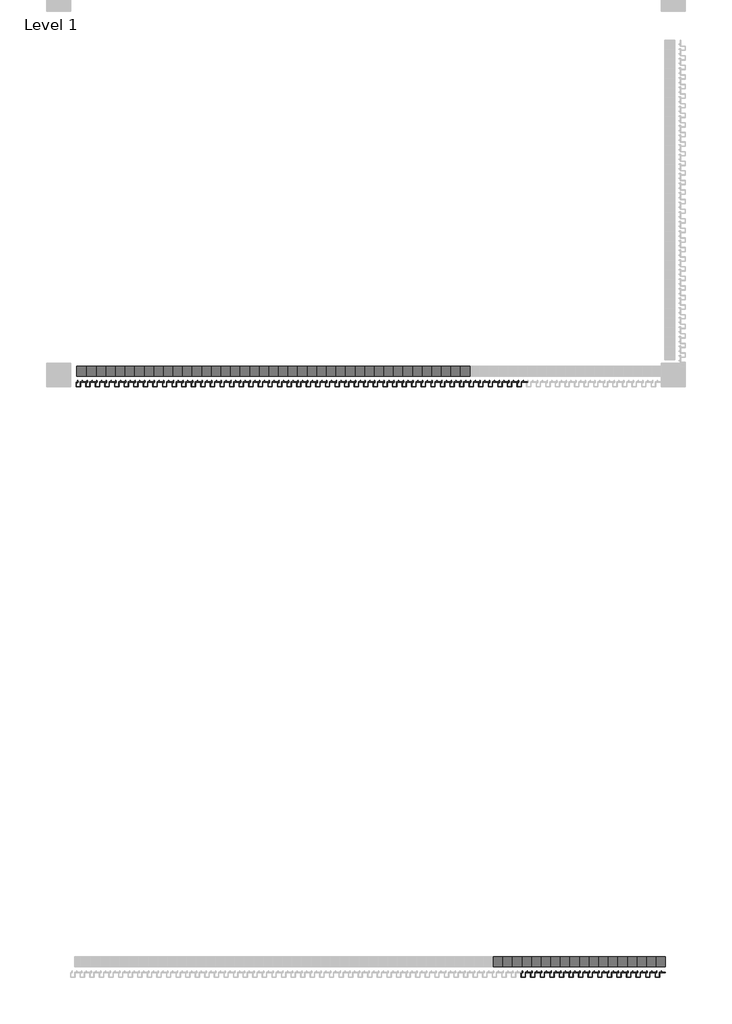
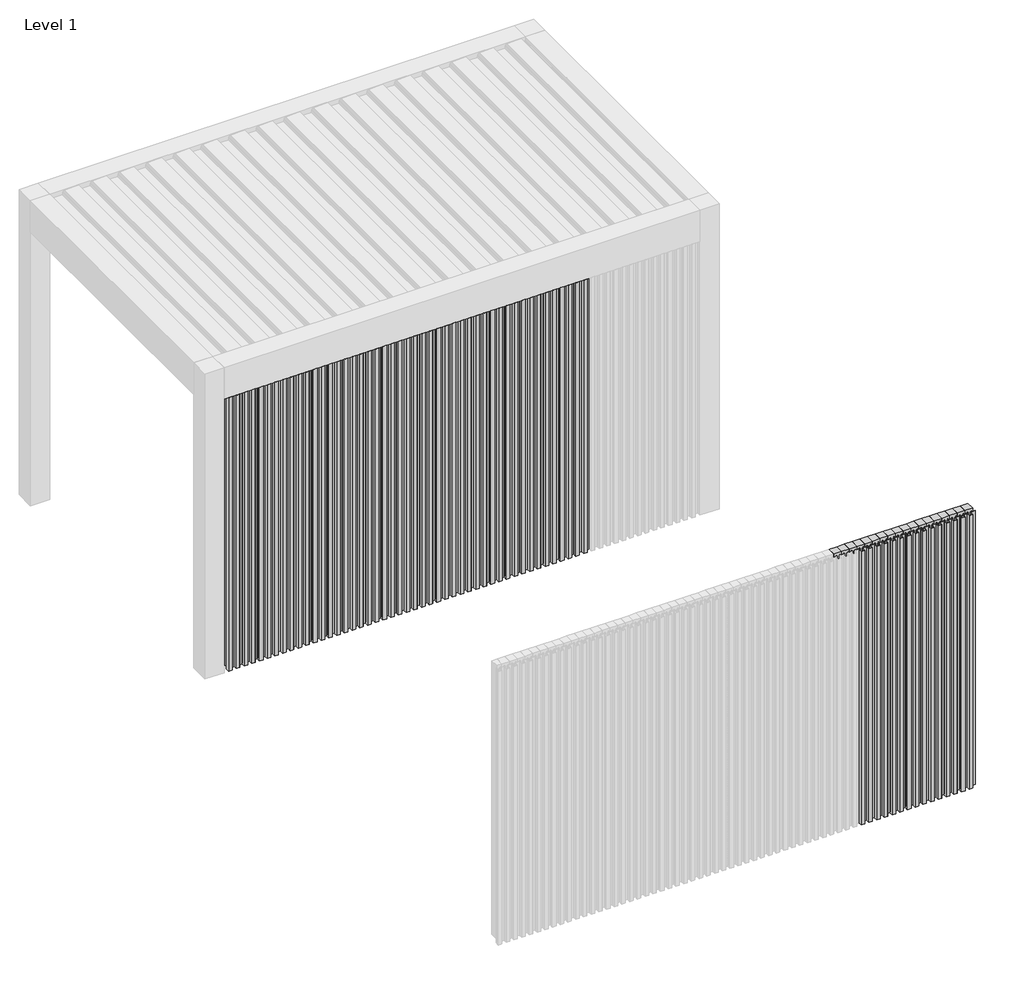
# One storey, part 4 of 69: 62 members, 59 plates.
"""IFC4 building model written with IfcOpenShell, lengths in millimetres."""

from ifc_helpers import new_model, si_unit, origin, origin_with_axes, place, context, project, spatial, polyline, outline, extrude, transform, mapped, element, save
from components import rectangular_mullion_72383e52, rectangular_mullion_f26adc31

model = new_model("IFC4")

# Units and contexts
model_context = context("Model", 3, world=origin())
ifc_project = project(units=[si_unit("LENGTHUNIT", "METRE", prefix="MILLI")], contexts=[model_context])

# Site, building, storey
site = spatial("IfcSite", under=ifc_project)
building = spatial("IfcBuilding", under=site)
storey = spatial("IfcBuildingStorey", under=building, Name="Level 1", Elevation=0.0)

# Members
placement = place(None, origin())
rectangular_mullion_shape = rectangular_mullion_72383e52(model_context)
element("IfcMember", 1, ObjectType="Rectangular Mullion : Renson_Linarte_LA-B30-01", at=placement, inside=storey, context=model_context, shape_type="MappedRepresentation", body=[
    mapped(rectangular_mullion_shape, transform((210010.5749423, 15422.7652501, 0.0), x_axis=(-1.0, 0.0, 0.0), y_axis=(0.0, 1.0, 0.0), z_axis=(0.0, 0.0, -1.0))),
])
element("IfcMember", 2, ObjectType="Rectangular Mullion : Renson_Linarte_LA-B30-01", at=placement, inside=storey, context=model_context, shape_type="MappedRepresentation", body=[
    mapped(rectangular_mullion_shape, transform((210070.5749423, 15422.7652501, 0.0), x_axis=(-1.0, 0.0, 0.0), y_axis=(0.0, 1.0, 0.0), z_axis=(0.0, 0.0, -1.0))),
])
element("IfcMember", 3, ObjectType="Rectangular Mullion : Renson_Linarte_LA-B30-01", at=placement, inside=storey, context=model_context, shape_type="MappedRepresentation", body=[
    mapped(rectangular_mullion_shape, transform((210130.5749423, 15422.7652501, 0.0), x_axis=(-1.0, 0.0, 0.0), y_axis=(0.0, 1.0, 0.0), z_axis=(0.0, 0.0, -1.0))),
])
element("IfcMember", 4, ObjectType="Rectangular Mullion : Renson_Linarte_LA-B30-01", at=placement, inside=storey, context=model_context, shape_type="MappedRepresentation", body=[
    mapped(rectangular_mullion_shape, transform((210190.5749423, 15422.7652501, 0.0), x_axis=(-1.0, 0.0, 0.0), y_axis=(0.0, 1.0, 0.0), z_axis=(0.0, 0.0, -1.0))),
])
element("IfcMember", 5, ObjectType="Rectangular Mullion : Renson_Linarte_LA-B30-01", at=placement, inside=storey, context=model_context, shape_type="MappedRepresentation", body=[
    mapped(rectangular_mullion_shape, transform((210250.5749423, 15422.7652501, 0.0), x_axis=(-1.0, 0.0, 0.0), y_axis=(0.0, 1.0, 0.0), z_axis=(0.0, 0.0, -1.0))),
])
element("IfcMember", 6, ObjectType="Rectangular Mullion : Renson_Linarte_LA-B30-01", at=placement, inside=storey, context=model_context, shape_type="MappedRepresentation", body=[
    mapped(rectangular_mullion_shape, transform((210310.5749423, 15422.7652501, 0.0), x_axis=(-1.0, 0.0, 0.0), y_axis=(0.0, 1.0, 0.0), z_axis=(0.0, 0.0, -1.0))),
])
element("IfcMember", 7, ObjectType="Rectangular Mullion : Renson_Linarte_LA-B30-01", at=placement, inside=storey, context=model_context, shape_type="MappedRepresentation", body=[
    mapped(rectangular_mullion_shape, transform((210370.5749423, 15422.7652501, 0.0), x_axis=(-1.0, 0.0, 0.0), y_axis=(0.0, 1.0, 0.0), z_axis=(0.0, 0.0, -1.0))),
])
element("IfcMember", 8, ObjectType="Rectangular Mullion : Renson_Linarte_LA-B30-01", at=placement, inside=storey, context=model_context, shape_type="MappedRepresentation", body=[
    mapped(rectangular_mullion_shape, transform((210430.5749423, 15422.7652501, 0.0), x_axis=(-1.0, 0.0, 0.0), y_axis=(0.0, 1.0, 0.0), z_axis=(0.0, 0.0, -1.0))),
])
element("IfcMember", 9, ObjectType="Rectangular Mullion : Renson_Linarte_LA-B30-01", at=placement, inside=storey, context=model_context, shape_type="MappedRepresentation", body=[
    mapped(rectangular_mullion_shape, transform((210490.5749423, 15422.7652501, 0.0), x_axis=(-1.0, 0.0, 0.0), y_axis=(0.0, 1.0, 0.0), z_axis=(0.0, 0.0, -1.0))),
])
element("IfcMember", 10, ObjectType="Rectangular Mullion : Renson_Linarte_LA-B30-01", at=placement, inside=storey, context=model_context, shape_type="MappedRepresentation", body=[
    mapped(rectangular_mullion_shape, transform((210550.5749423, 15422.7652501, 0.0), x_axis=(-1.0, 0.0, 0.0), y_axis=(0.0, 1.0, 0.0), z_axis=(0.0, 0.0, -1.0))),
])
element("IfcMember", 11, ObjectType="Rectangular Mullion : Renson_Linarte_LA-B30-01", at=placement, inside=storey, context=model_context, shape_type="MappedRepresentation", body=[
    mapped(rectangular_mullion_shape, transform((210610.5749423, 15422.7652501, 0.0), x_axis=(-1.0, 0.0, 0.0), y_axis=(0.0, 1.0, 0.0), z_axis=(0.0, 0.0, -1.0))),
])
element("IfcMember", 12, ObjectType="Rectangular Mullion : Renson_Linarte_LA-B30-01", at=placement, inside=storey, context=model_context, shape_type="MappedRepresentation", body=[
    mapped(rectangular_mullion_shape, transform((210670.5749423, 15422.7652501, 0.0), x_axis=(-1.0, 0.0, 0.0), y_axis=(0.0, 1.0, 0.0), z_axis=(0.0, 0.0, -1.0))),
])
element("IfcMember", 13, ObjectType="Rectangular Mullion : Renson_Linarte_LA-B30-01", at=placement, inside=storey, context=model_context, shape_type="MappedRepresentation", body=[
    mapped(rectangular_mullion_shape, transform((210730.5749423, 15422.7652501, 0.0), x_axis=(-1.0, 0.0, 0.0), y_axis=(0.0, 1.0, 0.0), z_axis=(0.0, 0.0, -1.0))),
])
element("IfcMember", 14, ObjectType="Rectangular Mullion : Renson_Linarte_LA-B30-01", at=placement, inside=storey, context=model_context, shape_type="MappedRepresentation", body=[
    mapped(rectangular_mullion_shape, transform((210790.5749423, 15422.7652501, 0.0), x_axis=(-1.0, 0.0, 0.0), y_axis=(0.0, 1.0, 0.0), z_axis=(0.0, 0.0, -1.0))),
])
element("IfcMember", 15, ObjectType="Rectangular Mullion : Renson_Linarte_LA-B30-01", at=placement, inside=storey, context=model_context, shape_type="MappedRepresentation", body=[
    mapped(rectangular_mullion_shape, transform((208485.5749423, 19116.9290761, 0.0), x_axis=(-1.0, 0.0, 0.0), y_axis=(0.0, 1.0, 0.0), z_axis=(0.0, 0.0, -1.0))),
])
element("IfcMember", 16, ObjectType="Rectangular Mullion : Renson_Linarte_LA-B30-01", at=placement, inside=storey, context=model_context, shape_type="MappedRepresentation", body=[
    mapped(rectangular_mullion_shape, transform((208425.5749423, 19116.9290761, 0.0), x_axis=(-1.0, 0.0, 0.0), y_axis=(0.0, 1.0, 0.0), z_axis=(0.0, 0.0, -1.0))),
])
element("IfcMember", 17, ObjectType="Rectangular Mullion : Renson_Linarte_LA-B30-01", at=placement, inside=storey, context=model_context, shape_type="MappedRepresentation", body=[
    mapped(rectangular_mullion_shape, transform((208365.5749423, 19116.9290761, 0.0), x_axis=(-1.0, 0.0, 0.0), y_axis=(0.0, 1.0, 0.0), z_axis=(0.0, 0.0, -1.0))),
])
element("IfcMember", 18, ObjectType="Rectangular Mullion : Renson_Linarte_LA-B30-01", at=placement, inside=storey, context=model_context, shape_type="MappedRepresentation", body=[
    mapped(rectangular_mullion_shape, transform((208305.5749423, 19116.9290761, 0.0), x_axis=(-1.0, 0.0, 0.0), y_axis=(0.0, 1.0, 0.0), z_axis=(0.0, 0.0, -1.0))),
])
element("IfcMember", 19, ObjectType="Rectangular Mullion : Renson_Linarte_LA-B30-01", at=placement, inside=storey, context=model_context, shape_type="MappedRepresentation", body=[
    mapped(rectangular_mullion_shape, transform((208245.5749423, 19116.9290761, 0.0), x_axis=(-1.0, 0.0, 0.0), y_axis=(0.0, 1.0, 0.0), z_axis=(0.0, 0.0, -1.0))),
])
element("IfcMember", 20, ObjectType="Rectangular Mullion : Renson_Linarte_LA-B30-01", at=placement, inside=storey, context=model_context, shape_type="MappedRepresentation", body=[
    mapped(rectangular_mullion_shape, transform((208185.5749423, 19116.9290761, 0.0), x_axis=(-1.0, 0.0, 0.0), y_axis=(0.0, 1.0, 0.0), z_axis=(0.0, 0.0, -1.0))),
])
element("IfcMember", 21, ObjectType="Rectangular Mullion : Renson_Linarte_LA-B30-01", at=placement, inside=storey, context=model_context, shape_type="MappedRepresentation", body=[
    mapped(rectangular_mullion_shape, transform((208125.5749423, 19116.9290761, 0.0), x_axis=(-1.0, 0.0, 0.0), y_axis=(0.0, 1.0, 0.0), z_axis=(0.0, 0.0, -1.0))),
])
element("IfcMember", 22, ObjectType="Rectangular Mullion : Renson_Linarte_LA-B30-01", at=placement, inside=storey, context=model_context, shape_type="MappedRepresentation", body=[
    mapped(rectangular_mullion_shape, transform((208065.5749423, 19116.9290761, 0.0), x_axis=(-1.0, 0.0, 0.0), y_axis=(0.0, 1.0, 0.0), z_axis=(0.0, 0.0, -1.0))),
])
element("IfcMember", 23, ObjectType="Rectangular Mullion : Renson_Linarte_LA-B30-01", at=placement, inside=storey, context=model_context, shape_type="MappedRepresentation", body=[
    mapped(rectangular_mullion_shape, transform((208005.5749423, 19116.9290761, 0.0), x_axis=(-1.0, 0.0, 0.0), y_axis=(0.0, 1.0, 0.0), z_axis=(0.0, 0.0, -1.0))),
])
element("IfcMember", 24, ObjectType="Rectangular Mullion : Renson_Linarte_LA-B30-01", at=placement, inside=storey, context=model_context, shape_type="MappedRepresentation", body=[
    mapped(rectangular_mullion_shape, transform((207945.5749423, 19116.9290761, 0.0), x_axis=(-1.0, 0.0, 0.0), y_axis=(0.0, 1.0, 0.0), z_axis=(0.0, 0.0, -1.0))),
])
element("IfcMember", 25, ObjectType="Rectangular Mullion : Renson_Linarte_LA-B30-01", at=placement, inside=storey, context=model_context, shape_type="MappedRepresentation", body=[
    mapped(rectangular_mullion_shape, transform((207885.5749423, 19116.9290761, 0.0), x_axis=(-1.0, 0.0, 0.0), y_axis=(0.0, 1.0, 0.0), z_axis=(0.0, 0.0, -1.0))),
])
element("IfcMember", 26, ObjectType="Rectangular Mullion : Renson_Linarte_LA-B30-01", at=placement, inside=storey, context=model_context, shape_type="MappedRepresentation", body=[
    mapped(rectangular_mullion_shape, transform((207825.5749423, 19116.9290761, 0.0), x_axis=(-1.0, 0.0, 0.0), y_axis=(0.0, 1.0, 0.0), z_axis=(0.0, 0.0, -1.0))),
])
element("IfcMember", 27, ObjectType="Rectangular Mullion : Renson_Linarte_LA-B30-01", at=placement, inside=storey, context=model_context, shape_type="MappedRepresentation", body=[
    mapped(rectangular_mullion_shape, transform((207765.5749423, 19116.9290761, 0.0), x_axis=(-1.0, 0.0, 0.0), y_axis=(0.0, 1.0, 0.0), z_axis=(0.0, 0.0, -1.0))),
])
element("IfcMember", 28, ObjectType="Rectangular Mullion : Renson_Linarte_LA-B30-01", at=placement, inside=storey, context=model_context, shape_type="MappedRepresentation", body=[
    mapped(rectangular_mullion_shape, transform((207705.5749423, 19116.9290761, 0.0), x_axis=(-1.0, 0.0, 0.0), y_axis=(0.0, 1.0, 0.0), z_axis=(0.0, 0.0, -1.0))),
])
element("IfcMember", 29, ObjectType="Rectangular Mullion : Renson_Linarte_LA-B30-01", at=placement, inside=storey, context=model_context, shape_type="MappedRepresentation", body=[
    mapped(rectangular_mullion_shape, transform((207645.5749423, 19116.9290761, 0.0), x_axis=(-1.0, 0.0, 0.0), y_axis=(0.0, 1.0, 0.0), z_axis=(0.0, 0.0, -1.0))),
])
element("IfcMember", 30, ObjectType="Rectangular Mullion : Renson_Linarte_LA-B30-01", at=placement, inside=storey, context=model_context, shape_type="MappedRepresentation", body=[
    mapped(rectangular_mullion_shape, transform((207585.5749423, 19116.9290761, 0.0), x_axis=(-1.0, 0.0, 0.0), y_axis=(0.0, 1.0, 0.0), z_axis=(0.0, 0.0, -1.0))),
])
element("IfcMember", 31, ObjectType="Rectangular Mullion : Renson_Linarte_LA-B30-01", at=placement, inside=storey, context=model_context, shape_type="MappedRepresentation", body=[
    mapped(rectangular_mullion_shape, transform((207525.5749423, 19116.9290761, 0.0), x_axis=(-1.0, 0.0, 0.0), y_axis=(0.0, 1.0, 0.0), z_axis=(0.0, 0.0, -1.0))),
])
element("IfcMember", 32, ObjectType="Rectangular Mullion : Renson_Linarte_LA-B30-01", at=placement, inside=storey, context=model_context, shape_type="MappedRepresentation", body=[
    mapped(rectangular_mullion_shape, transform((207465.5749423, 19116.9290761, 0.0), x_axis=(-1.0, 0.0, 0.0), y_axis=(0.0, 1.0, 0.0), z_axis=(0.0, 0.0, -1.0))),
])
element("IfcMember", 33, ObjectType="Rectangular Mullion : Renson_Linarte_LA-B30-01", at=placement, inside=storey, context=model_context, shape_type="MappedRepresentation", body=[
    mapped(rectangular_mullion_shape, transform((207405.5749423, 19116.9290761, 0.0), x_axis=(-1.0, 0.0, 0.0), y_axis=(0.0, 1.0, 0.0), z_axis=(0.0, 0.0, -1.0))),
])
element("IfcMember", 34, ObjectType="Rectangular Mullion : Renson_Linarte_LA-B30-01", at=placement, inside=storey, context=model_context, shape_type="MappedRepresentation", body=[
    mapped(rectangular_mullion_shape, transform((207345.5749423, 19116.9290761, 0.0), x_axis=(-1.0, 0.0, 0.0), y_axis=(0.0, 1.0, 0.0), z_axis=(0.0, 0.0, -1.0))),
])
element("IfcMember", 35, ObjectType="Rectangular Mullion : Renson_Linarte_LA-B30-01", at=placement, inside=storey, context=model_context, shape_type="MappedRepresentation", body=[
    mapped(rectangular_mullion_shape, transform((207285.5749423, 19116.9290761, 0.0), x_axis=(-1.0, 0.0, 0.0), y_axis=(0.0, 1.0, 0.0), z_axis=(0.0, 0.0, -1.0))),
])
element("IfcMember", 36, ObjectType="Rectangular Mullion : Renson_Linarte_LA-B30-01", at=placement, inside=storey, context=model_context, shape_type="MappedRepresentation", body=[
    mapped(rectangular_mullion_shape, transform((208545.5749423, 19116.9290761, 0.0), x_axis=(-1.0, 0.0, 0.0), y_axis=(0.0, 1.0, 0.0), z_axis=(0.0, 0.0, -1.0))),
])
element("IfcMember", 37, ObjectType="Rectangular Mullion : Renson_Linarte_LA-B30-01", at=placement, inside=storey, context=model_context, shape_type="MappedRepresentation", body=[
    mapped(rectangular_mullion_shape, transform((208605.5749423, 19116.9290761, 0.0), x_axis=(-1.0, 0.0, 0.0), y_axis=(0.0, 1.0, 0.0), z_axis=(0.0, 0.0, -1.0))),
])
element("IfcMember", 38, ObjectType="Rectangular Mullion : Renson_Linarte_LA-B30-01", at=placement, inside=storey, context=model_context, shape_type="MappedRepresentation", body=[
    mapped(rectangular_mullion_shape, transform((208665.5749423, 19116.9290761, 0.0), x_axis=(-1.0, 0.0, 0.0), y_axis=(0.0, 1.0, 0.0), z_axis=(0.0, 0.0, -1.0))),
])
element("IfcMember", 39, ObjectType="Rectangular Mullion : Renson_Linarte_LA-B30-01", at=placement, inside=storey, context=model_context, shape_type="MappedRepresentation", body=[
    mapped(rectangular_mullion_shape, transform((208725.5749423, 19116.9290761, 0.0), x_axis=(-1.0, 0.0, 0.0), y_axis=(0.0, 1.0, 0.0), z_axis=(0.0, 0.0, -1.0))),
])
element("IfcMember", 40, ObjectType="Rectangular Mullion : Renson_Linarte_LA-B30-01", at=placement, inside=storey, context=model_context, shape_type="MappedRepresentation", body=[
    mapped(rectangular_mullion_shape, transform((208785.5749423, 19116.9290761, 0.0), x_axis=(-1.0, 0.0, 0.0), y_axis=(0.0, 1.0, 0.0), z_axis=(0.0, 0.0, -1.0))),
])
element("IfcMember", 41, ObjectType="Rectangular Mullion : Renson_Linarte_LA-B30-01", at=placement, inside=storey, context=model_context, shape_type="MappedRepresentation", body=[
    mapped(rectangular_mullion_shape, transform((208845.5749423, 19116.9290761, 0.0), x_axis=(-1.0, 0.0, 0.0), y_axis=(0.0, 1.0, 0.0), z_axis=(0.0, 0.0, -1.0))),
])
element("IfcMember", 42, ObjectType="Rectangular Mullion : Renson_Linarte_LA-B30-01", at=placement, inside=storey, context=model_context, shape_type="MappedRepresentation", body=[
    mapped(rectangular_mullion_shape, transform((208905.5749423, 19116.9290761, 0.0), x_axis=(-1.0, 0.0, 0.0), y_axis=(0.0, 1.0, 0.0), z_axis=(0.0, 0.0, -1.0))),
])
element("IfcMember", 43, ObjectType="Rectangular Mullion : Renson_Linarte_LA-B30-01", at=placement, inside=storey, context=model_context, shape_type="MappedRepresentation", body=[
    mapped(rectangular_mullion_shape, transform((208965.5749423, 19116.9290761, 0.0), x_axis=(-1.0, 0.0, 0.0), y_axis=(0.0, 1.0, 0.0), z_axis=(0.0, 0.0, -1.0))),
])
element("IfcMember", 44, ObjectType="Rectangular Mullion : Renson_Linarte_LA-B30-01", at=placement, inside=storey, context=model_context, shape_type="MappedRepresentation", body=[
    mapped(rectangular_mullion_shape, transform((209025.5749423, 19116.9290761, 0.0), x_axis=(-1.0, 0.0, 0.0), y_axis=(0.0, 1.0, 0.0), z_axis=(0.0, 0.0, -1.0))),
])
element("IfcMember", 45, ObjectType="Rectangular Mullion : Renson_Linarte_LA-B30-01", at=placement, inside=storey, context=model_context, shape_type="MappedRepresentation", body=[
    mapped(rectangular_mullion_shape, transform((209085.5749423, 19116.9290761, 0.0), x_axis=(-1.0, 0.0, 0.0), y_axis=(0.0, 1.0, 0.0), z_axis=(0.0, 0.0, -1.0))),
])
element("IfcMember", 46, ObjectType="Rectangular Mullion : Renson_Linarte_LA-B30-01", at=placement, inside=storey, context=model_context, shape_type="MappedRepresentation", body=[
    mapped(rectangular_mullion_shape, transform((209145.5749423, 19116.9290761, 0.0), x_axis=(-1.0, 0.0, 0.0), y_axis=(0.0, 1.0, 0.0), z_axis=(0.0, 0.0, -1.0))),
])
element("IfcMember", 47, ObjectType="Rectangular Mullion : Renson_Linarte_LA-B30-01", at=placement, inside=storey, context=model_context, shape_type="MappedRepresentation", body=[
    mapped(rectangular_mullion_shape, transform((209205.5749423, 19116.9290761, 0.0), x_axis=(-1.0, 0.0, 0.0), y_axis=(0.0, 1.0, 0.0), z_axis=(0.0, 0.0, -1.0))),
])
element("IfcMember", 48, ObjectType="Rectangular Mullion : Renson_Linarte_LA-B30-01", at=placement, inside=storey, context=model_context, shape_type="MappedRepresentation", body=[
    mapped(rectangular_mullion_shape, transform((209265.5749423, 19116.9290761, 0.0), x_axis=(-1.0, 0.0, 0.0), y_axis=(0.0, 1.0, 0.0), z_axis=(0.0, 0.0, -1.0))),
])
element("IfcMember", 49, ObjectType="Rectangular Mullion : Renson_Linarte_LA-B30-01", at=placement, inside=storey, context=model_context, shape_type="MappedRepresentation", body=[
    mapped(rectangular_mullion_shape, transform((209325.5749423, 19116.9290761, 0.0), x_axis=(-1.0, 0.0, 0.0), y_axis=(0.0, 1.0, 0.0), z_axis=(0.0, 0.0, -1.0))),
])
element("IfcMember", 50, ObjectType="Rectangular Mullion : Renson_Linarte_LA-B30-01", at=placement, inside=storey, context=model_context, shape_type="MappedRepresentation", body=[
    mapped(rectangular_mullion_shape, transform((209385.5749423, 19116.9290761, 0.0), x_axis=(-1.0, 0.0, 0.0), y_axis=(0.0, 1.0, 0.0), z_axis=(0.0, 0.0, -1.0))),
])
element("IfcMember", 51, ObjectType="Rectangular Mullion : Renson_Linarte_LA-B30-01", at=placement, inside=storey, context=model_context, shape_type="MappedRepresentation", body=[
    mapped(rectangular_mullion_shape, transform((209445.5749423, 19116.9290761, 0.0), x_axis=(-1.0, 0.0, 0.0), y_axis=(0.0, 1.0, 0.0), z_axis=(0.0, 0.0, -1.0))),
])
element("IfcMember", 52, ObjectType="Rectangular Mullion : Renson_Linarte_LA-B30-01", at=placement, inside=storey, context=model_context, shape_type="MappedRepresentation", body=[
    mapped(rectangular_mullion_shape, transform((209505.5749423, 19116.9290761, 0.0), x_axis=(-1.0, 0.0, 0.0), y_axis=(0.0, 1.0, 0.0), z_axis=(0.0, 0.0, -1.0))),
])
element("IfcMember", 53, ObjectType="Rectangular Mullion : Renson_Linarte_LA-B30-01", at=placement, inside=storey, context=model_context, shape_type="MappedRepresentation", body=[
    mapped(rectangular_mullion_shape, transform((209565.5749423, 19116.9290761, 0.0), x_axis=(-1.0, 0.0, 0.0), y_axis=(0.0, 1.0, 0.0), z_axis=(0.0, 0.0, -1.0))),
])
element("IfcMember", 54, ObjectType="Rectangular Mullion : Renson_Linarte_LA-B30-01", at=placement, inside=storey, context=model_context, shape_type="MappedRepresentation", body=[
    mapped(rectangular_mullion_shape, transform((209625.5749423, 19116.9290761, 0.0), x_axis=(-1.0, 0.0, 0.0), y_axis=(0.0, 1.0, 0.0), z_axis=(0.0, 0.0, -1.0))),
])
element("IfcMember", 55, ObjectType="Rectangular Mullion : Renson_Linarte_LA-B30-01", at=placement, inside=storey, context=model_context, shape_type="MappedRepresentation", body=[
    mapped(rectangular_mullion_shape, transform((209685.5749423, 19116.9290761, 0.0), x_axis=(-1.0, 0.0, 0.0), y_axis=(0.0, 1.0, 0.0), z_axis=(0.0, 0.0, -1.0))),
])
element("IfcMember", 56, ObjectType="Rectangular Mullion : Renson_Linarte_LA-B30-01", at=placement, inside=storey, context=model_context, shape_type="MappedRepresentation", body=[
    mapped(rectangular_mullion_shape, transform((209745.5749423, 19116.9290761, 0.0), x_axis=(-1.0, 0.0, 0.0), y_axis=(0.0, 1.0, 0.0), z_axis=(0.0, 0.0, -1.0))),
])
element("IfcMember", 57, ObjectType="Rectangular Mullion : Renson_Linarte_LA-B30-01", at=placement, inside=storey, context=model_context, shape_type="MappedRepresentation", body=[
    mapped(rectangular_mullion_shape, transform((209805.5749423, 19116.9290761, 0.0), x_axis=(-1.0, 0.0, 0.0), y_axis=(0.0, 1.0, 0.0), z_axis=(0.0, 0.0, -1.0))),
])
element("IfcMember", 58, ObjectType="Rectangular Mullion : Renson_Linarte_LA-B30-01", at=placement, inside=storey, context=model_context, shape_type="MappedRepresentation", body=[
    mapped(rectangular_mullion_shape, transform((209865.5749423, 19116.9290761, 0.0), x_axis=(-1.0, 0.0, 0.0), y_axis=(0.0, 1.0, 0.0), z_axis=(0.0, 0.0, -1.0))),
])
element("IfcMember", 59, ObjectType="Rectangular Mullion : Renson_Linarte_LA-B30-01", at=placement, inside=storey, context=model_context, shape_type="MappedRepresentation", body=[
    mapped(rectangular_mullion_shape, transform((209925.5749423, 19116.9290761, 0.0), x_axis=(-1.0, 0.0, 0.0), y_axis=(0.0, 1.0, 0.0), z_axis=(0.0, 0.0, -1.0))),
])
element("IfcMember", 60, ObjectType="Rectangular Mullion : Renson_Linarte_LA-B30-01", at=placement, inside=storey, context=model_context, shape_type="MappedRepresentation", body=[
    mapped(rectangular_mullion_shape, transform((209985.5749423, 19116.9290761, 0.0), x_axis=(-1.0, 0.0, 0.0), y_axis=(0.0, 1.0, 0.0), z_axis=(0.0, 0.0, -1.0))),
])
element("IfcMember", 61, ObjectType="Rectangular Mullion : Renson_Linarte_LA-B30-01", at=placement, inside=storey, context=model_context, shape_type="MappedRepresentation", body=[
    mapped(rectangular_mullion_shape, transform((207225.5749423, 19116.9290761, 0.0), x_axis=(-1.0, 0.0, 0.0), y_axis=(0.0, 1.0, 0.0), z_axis=(0.0, 0.0, -1.0))),
])
rectangular_mullion_2_shape = rectangular_mullion_f26adc31(model_context)
element("IfcMember", 62, ObjectType="Rectangular Mullion : Renson_Linarte_LA-B30-01", at=placement, inside=storey, context=model_context, shape_type="MappedRepresentation", body=[
    mapped(rectangular_mullion_2_shape, transform((210850.5749426, 15422.7652501, 2250.0), x_axis=(1.0, 0.0, 0.0), y_axis=(0.0, 1.0, 0.0), z_axis=(0.0, 0.0, 1.0))),
])

# Plates
element("IfcPlate", 63, ObjectType="Base - 64mm", at=placement, inside=storey, context=model_context, shape_type="SweptSolid", body=[
    extrude(outline(polyline([(209770.5749423, 15454.7652501), (209830.5749423, 15454.7652501), (209830.5749423, 15390.7652501), (209770.5749423, 15390.7652501), (209770.5749423, 15454.7652501)])), origin_with_axes(), (0.0, 0.0, 1.0), 2250.0),
])
element("IfcPlate", 64, ObjectType="Base - 64mm", at=placement, inside=storey, context=model_context, shape_type="SweptSolid", body=[
    extrude(outline(polyline([(209830.5749423, 15454.7652501), (209890.5749423, 15454.7652501), (209890.5749423, 15390.7652501), (209830.5749423, 15390.7652501), (209830.5749423, 15454.7652501)])), origin_with_axes(), (0.0, 0.0, 1.0), 2250.0),
])
element("IfcPlate", 65, ObjectType="Base - 64mm", at=placement, inside=storey, context=model_context, shape_type="SweptSolid", body=[
    extrude(outline(polyline([(209890.5749423, 15454.7652501), (209950.5749423, 15454.7652501), (209950.5749423, 15390.7652501), (209890.5749423, 15390.7652501), (209890.5749423, 15454.7652501)])), origin_with_axes(), (0.0, 0.0, 1.0), 2250.0),
])
element("IfcPlate", 66, ObjectType="Base - 64mm", at=placement, inside=storey, context=model_context, shape_type="SweptSolid", body=[
    extrude(outline(polyline([(209950.5749423, 15454.7652501), (210010.5749423, 15454.7652501), (210010.5749423, 15390.7652501), (209950.5749423, 15390.7652501), (209950.5749423, 15454.7652501)])), origin_with_axes(), (0.0, 0.0, 1.0), 2250.0),
])
element("IfcPlate", 67, ObjectType="Base - 64mm", at=placement, inside=storey, context=model_context, shape_type="SweptSolid", body=[
    extrude(outline(polyline([(210010.5749423, 15454.7652501), (210070.5749423, 15454.7652501), (210070.5749423, 15390.7652501), (210010.5749423, 15390.7652501), (210010.5749423, 15454.7652501)])), origin_with_axes(), (0.0, 0.0, 1.0), 2250.0),
])
element("IfcPlate", 68, ObjectType="Base - 64mm", at=placement, inside=storey, context=model_context, shape_type="SweptSolid", body=[
    extrude(outline(polyline([(210070.5749423, 15454.7652501), (210130.5749423, 15454.7652501), (210130.5749423, 15390.7652501), (210070.5749423, 15390.7652501), (210070.5749423, 15454.7652501)])), origin_with_axes(), (0.0, 0.0, 1.0), 2250.0),
])
element("IfcPlate", 69, ObjectType="Base - 64mm", at=placement, inside=storey, context=model_context, shape_type="SweptSolid", body=[
    extrude(outline(polyline([(210130.5749423, 15454.7652501), (210190.5749423, 15454.7652501), (210190.5749423, 15390.7652501), (210130.5749423, 15390.7652501), (210130.5749423, 15454.7652501)])), origin_with_axes(), (0.0, 0.0, 1.0), 2250.0),
])
element("IfcPlate", 70, ObjectType="Base - 64mm", at=placement, inside=storey, context=model_context, shape_type="SweptSolid", body=[
    extrude(outline(polyline([(210190.5749423, 15454.7652501), (210250.5749423, 15454.7652501), (210250.5749423, 15390.7652501), (210190.5749423, 15390.7652501), (210190.5749423, 15454.7652501)])), origin_with_axes(), (0.0, 0.0, 1.0), 2250.0),
])
element("IfcPlate", 71, ObjectType="Base - 64mm", at=placement, inside=storey, context=model_context, shape_type="SweptSolid", body=[
    extrude(outline(polyline([(210250.5749423, 15454.7652501), (210310.5749423, 15454.7652501), (210310.5749423, 15390.7652501), (210250.5749423, 15390.7652501), (210250.5749423, 15454.7652501)])), origin_with_axes(), (0.0, 0.0, 1.0), 2250.0),
])
element("IfcPlate", 72, ObjectType="Base - 64mm", at=placement, inside=storey, context=model_context, shape_type="SweptSolid", body=[
    extrude(outline(polyline([(210310.5749423, 15454.7652501), (210370.5749423, 15454.7652501), (210370.5749423, 15390.7652501), (210310.5749423, 15390.7652501), (210310.5749423, 15454.7652501)])), origin_with_axes(), (0.0, 0.0, 1.0), 2250.0),
])
element("IfcPlate", 73, ObjectType="Base - 64mm", at=placement, inside=storey, context=model_context, shape_type="SweptSolid", body=[
    extrude(outline(polyline([(210370.5749423, 15454.7652501), (210430.5749423, 15454.7652501), (210430.5749423, 15390.7652501), (210370.5749423, 15390.7652501), (210370.5749423, 15454.7652501)])), origin_with_axes(), (0.0, 0.0, 1.0), 2250.0),
])
element("IfcPlate", 74, ObjectType="Base - 64mm", at=placement, inside=storey, context=model_context, shape_type="SweptSolid", body=[
    extrude(outline(polyline([(210430.5749423, 15454.7652501), (210490.5749423, 15454.7652501), (210490.5749423, 15390.7652501), (210430.5749423, 15390.7652501), (210430.5749423, 15454.7652501)])), origin_with_axes(), (0.0, 0.0, 1.0), 2250.0),
])
element("IfcPlate", 75, ObjectType="Base - 64mm", at=placement, inside=storey, context=model_context, shape_type="SweptSolid", body=[
    extrude(outline(polyline([(210490.5749423, 15454.7652501), (210550.5749423, 15454.7652501), (210550.5749423, 15390.7652501), (210490.5749423, 15390.7652501), (210490.5749423, 15454.7652501)])), origin_with_axes(), (0.0, 0.0, 1.0), 2250.0),
])
element("IfcPlate", 76, ObjectType="Base - 64mm", at=placement, inside=storey, context=model_context, shape_type="SweptSolid", body=[
    extrude(outline(polyline([(210550.5749423, 15454.7652501), (210610.5749423, 15454.7652501), (210610.5749423, 15390.7652501), (210550.5749423, 15390.7652501), (210550.5749423, 15454.7652501)])), origin_with_axes(), (0.0, 0.0, 1.0), 2250.0),
])
element("IfcPlate", 77, ObjectType="Base - 64mm", at=placement, inside=storey, context=model_context, shape_type="SweptSolid", body=[
    extrude(outline(polyline([(210610.5749423, 15454.7652501), (210670.5749423, 15454.7652501), (210670.5749423, 15390.7652501), (210610.5749423, 15390.7652501), (210610.5749423, 15454.7652501)])), origin_with_axes(), (0.0, 0.0, 1.0), 2250.0),
])
element("IfcPlate", 78, ObjectType="Base - 64mm", at=placement, inside=storey, context=model_context, shape_type="SweptSolid", body=[
    extrude(outline(polyline([(210670.5749423, 15454.7652501), (210730.5749423, 15454.7652501), (210730.5749423, 15390.7652501), (210670.5749423, 15390.7652501), (210670.5749423, 15454.7652501)])), origin_with_axes(), (0.0, 0.0, 1.0), 2250.0),
])
element("IfcPlate", 79, ObjectType="Base - 64mm", at=placement, inside=storey, context=model_context, shape_type="SweptSolid", body=[
    extrude(outline(polyline([(210730.5749423, 15454.7652501), (210790.5749423, 15454.7652501), (210790.5749423, 15390.7652501), (210730.5749423, 15390.7652501), (210730.5749423, 15454.7652501)])), origin_with_axes(), (0.0, 0.0, 1.0), 2250.0),
])
element("IfcPlate", 80, ObjectType="Base - 64mm", at=placement, inside=storey, context=model_context, shape_type="SweptSolid", body=[
    extrude(outline(polyline([(210790.5749423, 15454.7652501), (210850.5749426, 15454.7652501), (210850.5749426, 15390.7652501), (210790.5749423, 15390.7652501), (210790.5749423, 15454.7652501)])), origin_with_axes(), (0.0, 0.0, 1.0), 2250.0),
])
element("IfcPlate", 81, ObjectType="Base - 64mm", at=placement, inside=storey, context=model_context, shape_type="SweptSolid", body=[
    extrude(outline(polyline([(207225.5749423, 19148.9290761), (207285.5749423, 19148.9290761), (207285.5749423, 19084.9290761), (207225.5749423, 19084.9290761), (207225.5749423, 19148.9290761)])), origin_with_axes(), (0.0, 0.0, 1.0), 2250.0),
])
element("IfcPlate", 82, ObjectType="Base - 64mm", at=placement, inside=storey, context=model_context, shape_type="SweptSolid", body=[
    extrude(outline(polyline([(207285.5749423, 19148.9290761), (207345.5749423, 19148.9290761), (207345.5749423, 19084.9290761), (207285.5749423, 19084.9290761), (207285.5749423, 19148.9290761)])), origin_with_axes(), (0.0, 0.0, 1.0), 2250.0),
])
element("IfcPlate", 83, ObjectType="Base - 64mm", at=placement, inside=storey, context=model_context, shape_type="SweptSolid", body=[
    extrude(outline(polyline([(207345.5749423, 19148.9290761), (207405.5749423, 19148.9290761), (207405.5749423, 19084.9290761), (207345.5749423, 19084.9290761), (207345.5749423, 19148.9290761)])), origin_with_axes(), (0.0, 0.0, 1.0), 2250.0),
])
element("IfcPlate", 84, ObjectType="Base - 64mm", at=placement, inside=storey, context=model_context, shape_type="SweptSolid", body=[
    extrude(outline(polyline([(207405.5749423, 19148.9290761), (207465.5749423, 19148.9290761), (207465.5749423, 19084.9290761), (207405.5749423, 19084.9290761), (207405.5749423, 19148.9290761)])), origin_with_axes(), (0.0, 0.0, 1.0), 2250.0),
])
element("IfcPlate", 85, ObjectType="Base - 64mm", at=placement, inside=storey, context=model_context, shape_type="SweptSolid", body=[
    extrude(outline(polyline([(207465.5749423, 19148.9290761), (207525.5749423, 19148.9290761), (207525.5749423, 19084.9290761), (207465.5749423, 19084.9290761), (207465.5749423, 19148.9290761)])), origin_with_axes(), (0.0, 0.0, 1.0), 2250.0),
])
element("IfcPlate", 86, ObjectType="Base - 64mm", at=placement, inside=storey, context=model_context, shape_type="SweptSolid", body=[
    extrude(outline(polyline([(207525.5749423, 19148.9290761), (207585.5749423, 19148.9290761), (207585.5749423, 19084.9290761), (207525.5749423, 19084.9290761), (207525.5749423, 19148.9290761)])), origin_with_axes(), (0.0, 0.0, 1.0), 2250.0),
])
element("IfcPlate", 87, ObjectType="Base - 64mm", at=placement, inside=storey, context=model_context, shape_type="SweptSolid", body=[
    extrude(outline(polyline([(207585.5749423, 19148.9290761), (207645.5749423, 19148.9290761), (207645.5749423, 19084.9290761), (207585.5749423, 19084.9290761), (207585.5749423, 19148.9290761)])), origin_with_axes(), (0.0, 0.0, 1.0), 2250.0),
])
element("IfcPlate", 88, ObjectType="Base - 64mm", at=placement, inside=storey, context=model_context, shape_type="SweptSolid", body=[
    extrude(outline(polyline([(207645.5749423, 19148.9290761), (207705.5749423, 19148.9290761), (207705.5749423, 19084.9290761), (207645.5749423, 19084.9290761), (207645.5749423, 19148.9290761)])), origin_with_axes(), (0.0, 0.0, 1.0), 2250.0),
])
element("IfcPlate", 89, ObjectType="Base - 64mm", at=placement, inside=storey, context=model_context, shape_type="SweptSolid", body=[
    extrude(outline(polyline([(207705.5749423, 19148.9290761), (207765.5749423, 19148.9290761), (207765.5749423, 19084.9290761), (207705.5749423, 19084.9290761), (207705.5749423, 19148.9290761)])), origin_with_axes(), (0.0, 0.0, 1.0), 2250.0),
])
element("IfcPlate", 90, ObjectType="Base - 64mm", at=placement, inside=storey, context=model_context, shape_type="SweptSolid", body=[
    extrude(outline(polyline([(207765.5749423, 19148.9290761), (207825.5749423, 19148.9290761), (207825.5749423, 19084.9290761), (207765.5749423, 19084.9290761), (207765.5749423, 19148.9290761)])), origin_with_axes(), (0.0, 0.0, 1.0), 2250.0),
])
element("IfcPlate", 91, ObjectType="Base - 64mm", at=placement, inside=storey, context=model_context, shape_type="SweptSolid", body=[
    extrude(outline(polyline([(207825.5749423, 19148.9290761), (207885.5749423, 19148.9290761), (207885.5749423, 19084.9290761), (207825.5749423, 19084.9290761), (207825.5749423, 19148.9290761)])), origin_with_axes(), (0.0, 0.0, 1.0), 2250.0),
])
element("IfcPlate", 92, ObjectType="Base - 64mm", at=placement, inside=storey, context=model_context, shape_type="SweptSolid", body=[
    extrude(outline(polyline([(207885.5749423, 19148.9290761), (207945.5749423, 19148.9290761), (207945.5749423, 19084.9290761), (207885.5749423, 19084.9290761), (207885.5749423, 19148.9290761)])), origin_with_axes(), (0.0, 0.0, 1.0), 2250.0),
])
element("IfcPlate", 93, ObjectType="Base - 64mm", at=placement, inside=storey, context=model_context, shape_type="SweptSolid", body=[
    extrude(outline(polyline([(207945.5749423, 19148.9290761), (208005.5749423, 19148.9290761), (208005.5749423, 19084.9290761), (207945.5749423, 19084.9290761), (207945.5749423, 19148.9290761)])), origin_with_axes(), (0.0, 0.0, 1.0), 2250.0),
])
element("IfcPlate", 94, ObjectType="Base - 64mm", at=placement, inside=storey, context=model_context, shape_type="SweptSolid", body=[
    extrude(outline(polyline([(208005.5749423, 19148.9290761), (208065.5749423, 19148.9290761), (208065.5749423, 19084.9290761), (208005.5749423, 19084.9290761), (208005.5749423, 19148.9290761)])), origin_with_axes(), (0.0, 0.0, 1.0), 2250.0),
])
element("IfcPlate", 95, ObjectType="Base - 64mm", at=placement, inside=storey, context=model_context, shape_type="SweptSolid", body=[
    extrude(outline(polyline([(208065.5749423, 19148.9290761), (208125.5749423, 19148.9290761), (208125.5749423, 19084.9290761), (208065.5749423, 19084.9290761), (208065.5749423, 19148.9290761)])), origin_with_axes(), (0.0, 0.0, 1.0), 2250.0),
])
element("IfcPlate", 96, ObjectType="Base - 64mm", at=placement, inside=storey, context=model_context, shape_type="SweptSolid", body=[
    extrude(outline(polyline([(208125.5749423, 19148.9290761), (208185.5749423, 19148.9290761), (208185.5749423, 19084.9290761), (208125.5749423, 19084.9290761), (208125.5749423, 19148.9290761)])), origin_with_axes(), (0.0, 0.0, 1.0), 2250.0),
])
element("IfcPlate", 97, ObjectType="Base - 64mm", at=placement, inside=storey, context=model_context, shape_type="SweptSolid", body=[
    extrude(outline(polyline([(208185.5749423, 19148.9290761), (208245.5749423, 19148.9290761), (208245.5749423, 19084.9290761), (208185.5749423, 19084.9290761), (208185.5749423, 19148.9290761)])), origin_with_axes(), (0.0, 0.0, 1.0), 2250.0),
])
element("IfcPlate", 98, ObjectType="Base - 64mm", at=placement, inside=storey, context=model_context, shape_type="SweptSolid", body=[
    extrude(outline(polyline([(208245.5749423, 19148.9290761), (208305.5749423, 19148.9290761), (208305.5749423, 19084.9290761), (208245.5749423, 19084.9290761), (208245.5749423, 19148.9290761)])), origin_with_axes(), (0.0, 0.0, 1.0), 2250.0),
])
element("IfcPlate", 99, ObjectType="Base - 64mm", at=placement, inside=storey, context=model_context, shape_type="SweptSolid", body=[
    extrude(outline(polyline([(208305.5749423, 19148.9290761), (208365.5749423, 19148.9290761), (208365.5749423, 19084.9290761), (208305.5749423, 19084.9290761), (208305.5749423, 19148.9290761)])), origin_with_axes(), (0.0, 0.0, 1.0), 2250.0),
])
element("IfcPlate", 100, ObjectType="Base - 64mm", at=placement, inside=storey, context=model_context, shape_type="SweptSolid", body=[
    extrude(outline(polyline([(208365.5749423, 19148.9290761), (208425.5749423, 19148.9290761), (208425.5749423, 19084.9290761), (208365.5749423, 19084.9290761), (208365.5749423, 19148.9290761)])), origin_with_axes(), (0.0, 0.0, 1.0), 2250.0),
])
element("IfcPlate", 101, ObjectType="Base - 64mm", at=placement, inside=storey, context=model_context, shape_type="SweptSolid", body=[
    extrude(outline(polyline([(208425.5749423, 19148.9290761), (208485.5749423, 19148.9290761), (208485.5749423, 19084.9290761), (208425.5749423, 19084.9290761), (208425.5749423, 19148.9290761)])), origin_with_axes(), (0.0, 0.0, 1.0), 2250.0),
])
element("IfcPlate", 102, ObjectType="Base - 64mm", at=placement, inside=storey, context=model_context, shape_type="SweptSolid", body=[
    extrude(outline(polyline([(208485.5749423, 19148.9290761), (208545.5749423, 19148.9290761), (208545.5749423, 19084.9290761), (208485.5749423, 19084.9290761), (208485.5749423, 19148.9290761)])), origin_with_axes(), (0.0, 0.0, 1.0), 2250.0),
])
element("IfcPlate", 103, ObjectType="Base - 64mm", at=placement, inside=storey, context=model_context, shape_type="SweptSolid", body=[
    extrude(outline(polyline([(208545.5749423, 19148.9290761), (208605.5749423, 19148.9290761), (208605.5749423, 19084.9290761), (208545.5749423, 19084.9290761), (208545.5749423, 19148.9290761)])), origin_with_axes(), (0.0, 0.0, 1.0), 2250.0),
])
element("IfcPlate", 104, ObjectType="Base - 64mm", at=placement, inside=storey, context=model_context, shape_type="SweptSolid", body=[
    extrude(outline(polyline([(208605.5749423, 19148.9290761), (208665.5749423, 19148.9290761), (208665.5749423, 19084.9290761), (208605.5749423, 19084.9290761), (208605.5749423, 19148.9290761)])), origin_with_axes(), (0.0, 0.0, 1.0), 2250.0),
])
element("IfcPlate", 105, ObjectType="Base - 64mm", at=placement, inside=storey, context=model_context, shape_type="SweptSolid", body=[
    extrude(outline(polyline([(208665.5749423, 19148.9290761), (208725.5749423, 19148.9290761), (208725.5749423, 19084.9290761), (208665.5749423, 19084.9290761), (208665.5749423, 19148.9290761)])), origin_with_axes(), (0.0, 0.0, 1.0), 2250.0),
])
element("IfcPlate", 106, ObjectType="Base - 64mm", at=placement, inside=storey, context=model_context, shape_type="SweptSolid", body=[
    extrude(outline(polyline([(208725.5749423, 19148.9290761), (208785.5749423, 19148.9290761), (208785.5749423, 19084.9290761), (208725.5749423, 19084.9290761), (208725.5749423, 19148.9290761)])), origin_with_axes(), (0.0, 0.0, 1.0), 2250.0),
])
element("IfcPlate", 107, ObjectType="Base - 64mm", at=placement, inside=storey, context=model_context, shape_type="SweptSolid", body=[
    extrude(outline(polyline([(208785.5749423, 19148.9290761), (208845.5749423, 19148.9290761), (208845.5749423, 19084.9290761), (208785.5749423, 19084.9290761), (208785.5749423, 19148.9290761)])), origin_with_axes(), (0.0, 0.0, 1.0), 2250.0),
])
element("IfcPlate", 108, ObjectType="Base - 64mm", at=placement, inside=storey, context=model_context, shape_type="SweptSolid", body=[
    extrude(outline(polyline([(208845.5749423, 19148.9290761), (208905.5749423, 19148.9290761), (208905.5749423, 19084.9290761), (208845.5749423, 19084.9290761), (208845.5749423, 19148.9290761)])), origin_with_axes(), (0.0, 0.0, 1.0), 2250.0),
])
element("IfcPlate", 109, ObjectType="Base - 64mm", at=placement, inside=storey, context=model_context, shape_type="SweptSolid", body=[
    extrude(outline(polyline([(208905.5749423, 19148.9290761), (208965.5749423, 19148.9290761), (208965.5749423, 19084.9290761), (208905.5749423, 19084.9290761), (208905.5749423, 19148.9290761)])), origin_with_axes(), (0.0, 0.0, 1.0), 2250.0),
])
element("IfcPlate", 110, ObjectType="Base - 64mm", at=placement, inside=storey, context=model_context, shape_type="SweptSolid", body=[
    extrude(outline(polyline([(208965.5749423, 19148.9290761), (209025.5749423, 19148.9290761), (209025.5749423, 19084.9290761), (208965.5749423, 19084.9290761), (208965.5749423, 19148.9290761)])), origin_with_axes(), (0.0, 0.0, 1.0), 2250.0),
])
element("IfcPlate", 111, ObjectType="Base - 64mm", at=placement, inside=storey, context=model_context, shape_type="SweptSolid", body=[
    extrude(outline(polyline([(209025.5749423, 19148.9290761), (209085.5749423, 19148.9290761), (209085.5749423, 19084.9290761), (209025.5749423, 19084.9290761), (209025.5749423, 19148.9290761)])), origin_with_axes(), (0.0, 0.0, 1.0), 2250.0),
])
element("IfcPlate", 112, ObjectType="Base - 64mm", at=placement, inside=storey, context=model_context, shape_type="SweptSolid", body=[
    extrude(outline(polyline([(209085.5749423, 19148.9290761), (209145.5749423, 19148.9290761), (209145.5749423, 19084.9290761), (209085.5749423, 19084.9290761), (209085.5749423, 19148.9290761)])), origin_with_axes(), (0.0, 0.0, 1.0), 2250.0),
])
element("IfcPlate", 113, ObjectType="Base - 64mm", at=placement, inside=storey, context=model_context, shape_type="SweptSolid", body=[
    extrude(outline(polyline([(209145.5749423, 19148.9290761), (209205.5749423, 19148.9290761), (209205.5749423, 19084.9290761), (209145.5749423, 19084.9290761), (209145.5749423, 19148.9290761)])), origin_with_axes(), (0.0, 0.0, 1.0), 2250.0),
])
element("IfcPlate", 114, ObjectType="Base - 64mm", at=placement, inside=storey, context=model_context, shape_type="SweptSolid", body=[
    extrude(outline(polyline([(209205.5749423, 19148.9290761), (209265.5749423, 19148.9290761), (209265.5749423, 19084.9290761), (209205.5749423, 19084.9290761), (209205.5749423, 19148.9290761)])), origin_with_axes(), (0.0, 0.0, 1.0), 2250.0),
])
element("IfcPlate", 115, ObjectType="Base - 64mm", at=placement, inside=storey, context=model_context, shape_type="SweptSolid", body=[
    extrude(outline(polyline([(209265.5749423, 19148.9290761), (209325.5749423, 19148.9290761), (209325.5749423, 19084.9290761), (209265.5749423, 19084.9290761), (209265.5749423, 19148.9290761)])), origin_with_axes(), (0.0, 0.0, 1.0), 2250.0),
])
element("IfcPlate", 116, ObjectType="Base - 64mm", at=placement, inside=storey, context=model_context, shape_type="SweptSolid", body=[
    extrude(outline(polyline([(209325.5749423, 19148.9290761), (209385.5749423, 19148.9290761), (209385.5749423, 19084.9290761), (209325.5749423, 19084.9290761), (209325.5749423, 19148.9290761)])), origin_with_axes(), (0.0, 0.0, 1.0), 2250.0),
])
element("IfcPlate", 117, ObjectType="Base - 64mm", at=placement, inside=storey, context=model_context, shape_type="SweptSolid", body=[
    extrude(outline(polyline([(209385.5749423, 19148.9290761), (209445.5749423, 19148.9290761), (209445.5749423, 19084.9290761), (209385.5749423, 19084.9290761), (209385.5749423, 19148.9290761)])), origin_with_axes(), (0.0, 0.0, 1.0), 2250.0),
])
element("IfcPlate", 118, ObjectType="Base - 64mm", at=placement, inside=storey, context=model_context, shape_type="SweptSolid", body=[
    extrude(outline(polyline([(209445.5749423, 19148.9290761), (209505.5749423, 19148.9290761), (209505.5749423, 19084.9290761), (209445.5749423, 19084.9290761), (209445.5749423, 19148.9290761)])), origin_with_axes(), (0.0, 0.0, 1.0), 2250.0),
])
element("IfcPlate", 119, ObjectType="Base - 64mm", at=placement, inside=storey, context=model_context, shape_type="SweptSolid", body=[
    extrude(outline(polyline([(209505.5749423, 19148.9290761), (209565.5749423, 19148.9290761), (209565.5749423, 19084.9290761), (209505.5749423, 19084.9290761), (209505.5749423, 19148.9290761)])), origin_with_axes(), (0.0, 0.0, 1.0), 2250.0),
])
element("IfcPlate", 120, ObjectType="Base - 64mm", at=placement, inside=storey, context=model_context, shape_type="SweptSolid", body=[
    extrude(outline(polyline([(209565.5749423, 19148.9290761), (209625.5749423, 19148.9290761), (209625.5749423, 19084.9290761), (209565.5749423, 19084.9290761), (209565.5749423, 19148.9290761)])), origin_with_axes(), (0.0, 0.0, 1.0), 2250.0),
])
element("IfcPlate", 121, ObjectType="Base - 64mm", at=placement, inside=storey, context=model_context, shape_type="SweptSolid", body=[
    extrude(outline(polyline([(207165.5749426, 19148.9290761), (207225.5749423, 19148.9290761), (207225.5749423, 19084.9290761), (207165.5749426, 19084.9290761), (207165.5749426, 19148.9290761)])), origin_with_axes(), (0.0, 0.0, 1.0), 2250.0),
])

save(model, "model.ifc")
